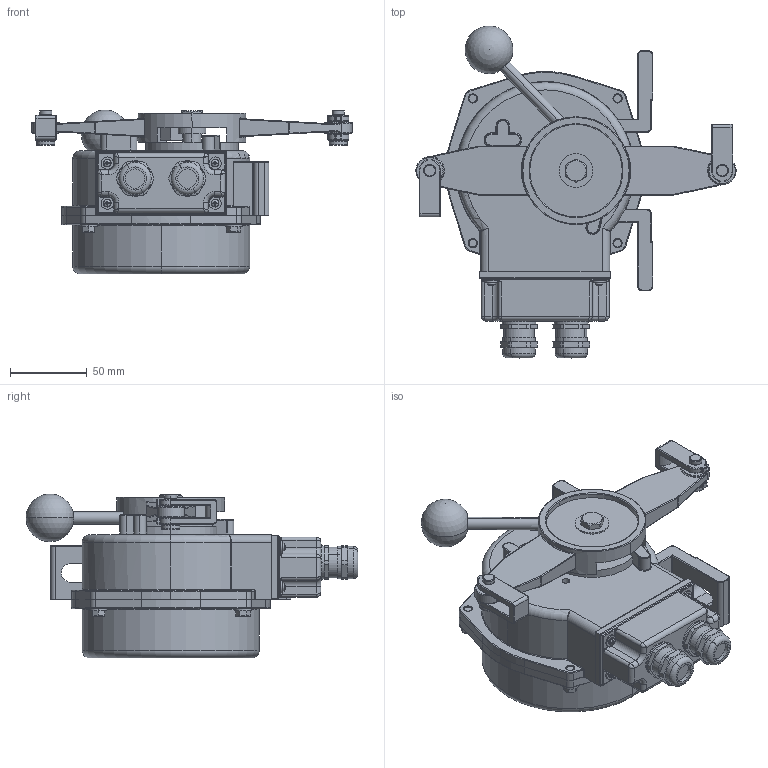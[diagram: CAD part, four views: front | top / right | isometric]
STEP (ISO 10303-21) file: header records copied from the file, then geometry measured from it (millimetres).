
FILE_DESCRIPTION (( 'STEP AP214' ), '1' );
FILE_NAME ('RES-N.STEP', '2021-02-10T11:26:47', ( '' ), ( '' ), 'SwSTEP 2.0', 'SolidWorks 2020', '' );
FILE_SCHEMA (( 'AUTOMOTIVE_DESIGN' ));
Length unit declared in the file: millimetre
Products named in the file (16): pan cross head_am_B18.6.7M - M2.5 x 0.45 x 3 Type I Cross Recessed PHMS --3N; 砎閷麠縺; RES-NÁîêîâàÿ êðûøêà; RES-N; RES-N扻錝僝鍧; flat washer narrow_am_B18.22M - Plain washer, 5 mm, narrow; ч膹樖罻; Ðó÷êà; RES-NÊðûøêà êîðïóñà; RES-N幄鼭歑; flat washer regular_am_B18.22M - Plain washer, 2.5 mm, regular; Êóðîê; RES-N扻豵鵨; 櫻蠉錪2^RES-N; RES-NØòóðöåð ðó÷êè; hex screw_am_B18.6.7M - M5 x 0.8 x 13 Indented HHMS --13N
Assembly tree (31 placements, depth 2):
  RES-N
    RES-N扻豵鵨
    RES-NÁîêîâàÿ êðûøêà
    RES-NÊðûøêà êîðïóñà
    RES-NØòóðöåð ðó÷êè
    RES-N扻錝僝鍧  x2
    RES-N幄鼭歑  x2
    hex screw_am_B18.6.7M - M5 x 0.8 x 13 Indented HHMS --13N  x4
    flat washer narrow_am_B18.22M - Plain washer, 5 mm, narrow  x4
    flat washer regular_am_B18.22M - Plain washer, 2.5 mm, regular  x4
    pan cross head_am_B18.6.7M - M2.5 x 0.45 x 3 Type I Cross Recessed PHMS --3N  x4
    ч膹樖罻  x2
    Êóðîê
    砎閷麠縺  x2
    Ðó÷êà
    櫻蠉錪2^RES-N
Bounding box: 208 x 215.56 x 106.5 mm (x, y, z)
Volume: 1178783.8 mm3; surface area: 166658.7 mm2
Topology: 31 solids, 31 shells, 1091 faces, 2528 edges, 1487 vertices
Faces by surface type: cylinder 455, plane 323, torus 183, bspline 66, cone 34, sphere 30
Entity records: 25976 total; most frequent: CARTESIAN_POINT 7560, DIRECTION 3958, ORIENTED_EDGE 3594, EDGE_CURVE 1797, AXIS2_PLACEMENT_3D 1625, VERTEX_POINT 1073, CIRCLE 877, EDGE_LOOP 848
